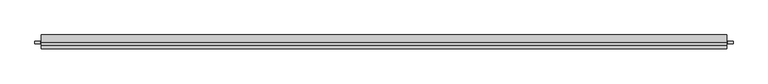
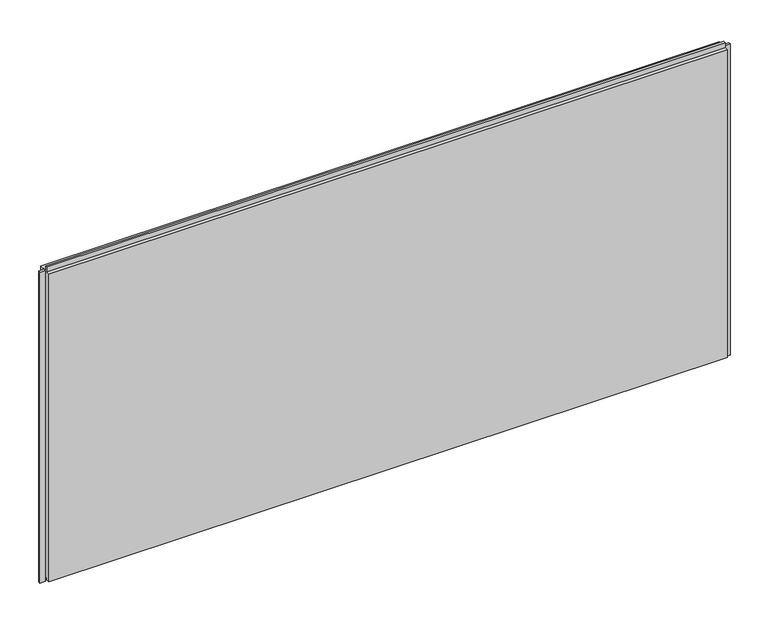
"""IFC4 building model written with IfcOpenShell, lengths in millimetres: plate geometry, Trimo_Qbiss Screen_Normal Panel-HORIZONTAL : HR - FB."""

from ifc_helpers import new_model, si_unit, frame, origin, place, context, project, spatial, polyline, outline, extrude, source, transform, mapped, element, save


def plate_0904af44(model_context):
    return source(origin(), model_context, "Body", "SweptSolid", [
        extrude(outline(polyline([(-1240.5, 76.5978162), (-1240.5, 67.8978162), (-1259.5, 67.8978162), (-1259.5, 76.5978162), (-1240.5, 76.5978162)])), frame((0.0, 0.0, -1.0), z_axis=(0.0, 0.0, 1.0), x_axis=(1.0, 0.0, 0.0)), (0.0, 0.0, 1.0), 1200.0),
        extrude(outline(polyline([(1240.5, 67.8978162), (1240.5, 76.5978162), (1259.5, 76.5978162), (1259.5, 67.8978162), (1240.5, 67.8978162)])), frame((0.0, 0.0, -1.0), z_axis=(0.0, 0.0, 1.0), x_axis=(1.0, 0.0, 0.0)), (0.0, 0.0, 1.0), 1200.0),
        extrude(outline(polyline([(71.0, 1196.0), (100.0, 1196.0), (100.0, 0.0), (72.0, 0.0), (72.0, 15.5), (62.0, 15.5), (62.0, 7.0), (50.0, 7.0), (50.0, 1196.0), (63.0, 1196.0), (63.0, 1214.5), (71.0, 1214.5), (71.0, 1196.0)])), frame((-1237.5, 0.0, 0.0), z_axis=(1.0, 0.0, 0.0), x_axis=(0.0, 1.0, 0.0)), (0.0, 0.0, 1.0), 2475.0),
    ])


if __name__ == "__main__":
    model = new_model("IFC4")
    model_context = context("Model", 3, world=origin())
    ifc_project = project(units=[si_unit("LENGTHUNIT", "METRE", prefix="MILLI")], contexts=[model_context])
    site = spatial("IfcSite", under=ifc_project)
    building = spatial("IfcBuilding", under=site)
    placement = place(None, origin())
    plate_shape = plate_0904af44(model_context)
    element("IfcPlate", 1, ObjectType="Trimo_Qbiss Screen_Normal Panel-HORIZONTAL : HR - FB", at=placement, inside=building, context=model_context, shape_type="MappedRepresentation", body=[
        mapped(plate_shape, transform((0.0, 0.0, 0.0), x_axis=(1.0, 0.0, 0.0), y_axis=(0.0, 1.0, 0.0), z_axis=(0.0, 0.0, 1.0))),
    ])
    save(model, "model.ifc")
